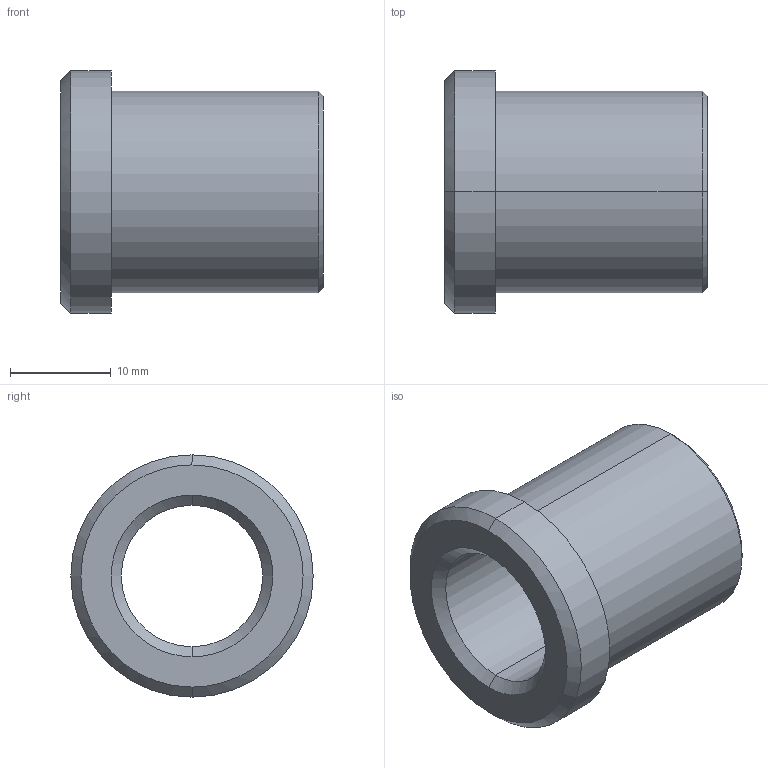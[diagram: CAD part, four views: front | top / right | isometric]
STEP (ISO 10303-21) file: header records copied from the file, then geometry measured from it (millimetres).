
FILE_DESCRIPTION(('CATIA V5 STEP Exchange'),'2;1');
FILE_NAME('C:\Users\Utente\Desktop\IO LAVORO\3D X SITO CF\X SITO\PLASTICA\353\353-14X26.stp','2021-04-21T12:18:13+00:00',('none'),('none'),'CATIA Version 5 Release 20 GA (IN-10)','CATIA V5 STEP AP203','none');
FILE_SCHEMA(('CONFIG_CONTROL_DESIGN'));
Length unit declared in the file: millimetre
Products named in the file (1): 353-14X26
Bounding box: 26 x 24 x 24 mm (x, y, z)
Volume: 4779.7 mm3; surface area: 3329.8 mm2
Topology: 1 solids, 1 shells, 17 faces, 54 edges, 40 vertices
Faces by surface type: cone 6, cylinder 6, plane 3, torus 2
Entity records: 746 total; most frequent: CARTESIAN_POINT 224, ORIENTED_EDGE 108, DIRECTION 80, EDGE_CURVE 54, AXIS2_PLACEMENT_3D 52, VERTEX_POINT 40, CIRCLE 34, EDGE_LOOP 20
